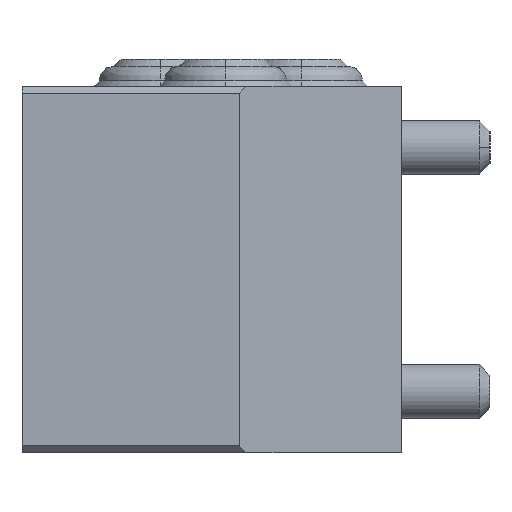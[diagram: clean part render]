
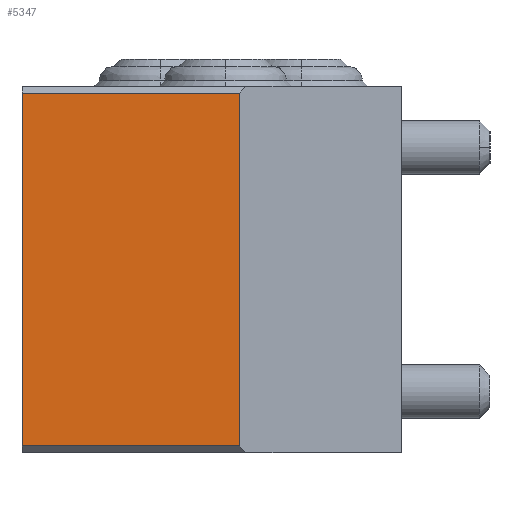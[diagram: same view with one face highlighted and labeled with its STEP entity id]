
A CAD part, left-side view. The second image highlights one B-rep face of the part: STEP entity #5347.
In plain terms, the highlighted planar face has unit normal (-1, 0, 0).
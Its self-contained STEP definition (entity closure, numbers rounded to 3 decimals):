
#1179 = CARTESIAN_POINT ( 'NONE',  ( -37.256, -25.598, 13. ) ) ;
#2333 = VERTEX_POINT ( 'NONE', #1179 ) ;
#2835 = LINE ( 'NONE', #5435, #2843 ) ;
#2843 = VECTOR ( 'NONE', #5493, 1000. ) ;
#3231 = VECTOR ( 'NONE', #4171, 1000. ) ;
#3260 = LINE ( 'NONE', #6562, #3231 ) ;
#3673 = AXIS2_PLACEMENT_3D ( 'NONE', #10176, #10384, #10767 ) ;
#3809 = CARTESIAN_POINT ( 'NONE',  ( -37.256, -25.598, -13. ) ) ;
#4171 = DIRECTION ( 'NONE',  ( 0., 0., -1. ) ) ;
#4664 = CARTESIAN_POINT ( 'NONE',  ( -37.256, -41.598, 13.5 ) ) ;
#4820 = VERTEX_POINT ( 'NONE', #3809 ) ;
#5098 = LINE ( 'NONE', #4664, #5137 ) ;
#5137 = VECTOR ( 'NONE', #5294, 1000. ) ;
#5294 = DIRECTION ( 'NONE',  ( 0., 0., 1. ) ) ;
#5347 = ADVANCED_FACE ( 'NONE', ( #10343 ), #9190, .F. ) ;
#5435 = CARTESIAN_POINT ( 'NONE',  ( -37.256, -41.598, 13. ) ) ;
#5493 = DIRECTION ( 'NONE',  ( 0., -1., 0. ) ) ;
#5561 = DIRECTION ( 'NONE',  ( 0., 1., 0. ) ) ;
#5825 = CARTESIAN_POINT ( 'NONE',  ( -37.256, -41.598, -13. ) ) ;
#5998 = VERTEX_POINT ( 'NONE', #8494 ) ;
#6150 = VERTEX_POINT ( 'NONE', #7588 ) ;
#6491 = EDGE_CURVE ( 'NONE', #6150, #4820, #8015, .T. ) ;
#6562 = CARTESIAN_POINT ( 'NONE',  ( -37.256, -25.598, 13.5 ) ) ;
#7588 = CARTESIAN_POINT ( 'NONE',  ( -37.256, -41.598, -13. ) ) ;
#7781 = ORIENTED_EDGE ( 'NONE', *, *, #9393, .T. ) ;
#7934 = ORIENTED_EDGE ( 'NONE', *, *, #8114, .T. ) ;
#8002 = VECTOR ( 'NONE', #5561, 1000. ) ;
#8008 = ORIENTED_EDGE ( 'NONE', *, *, #9657, .F. ) ;
#8015 = LINE ( 'NONE', #5825, #8002 ) ;
#8114 = EDGE_CURVE ( 'NONE', #6150, #5998, #5098, .T. ) ;
#8494 = CARTESIAN_POINT ( 'NONE',  ( -37.256, -41.598, 13. ) ) ;
#9190 = PLANE ( 'NONE',  #3673 ) ;
#9393 = EDGE_CURVE ( 'NONE', #2333, #4820, #3260, .T. ) ;
#9522 = EDGE_LOOP ( 'NONE', ( #8008, #7781, #9621, #7934 ) ) ;
#9621 = ORIENTED_EDGE ( 'NONE', *, *, #6491, .F. ) ;
#9657 = EDGE_CURVE ( 'NONE', #2333, #5998, #2835, .T. ) ;
#10176 = CARTESIAN_POINT ( 'NONE',  ( -37.256, -41.598, 13.5 ) ) ;
#10343 = FACE_OUTER_BOUND ( 'NONE', #9522, .T. ) ;
#10384 = DIRECTION ( 'NONE',  ( 1., 0., 0. ) ) ;
#10767 = DIRECTION ( 'NONE',  ( 0., 0., -1. ) ) ;
